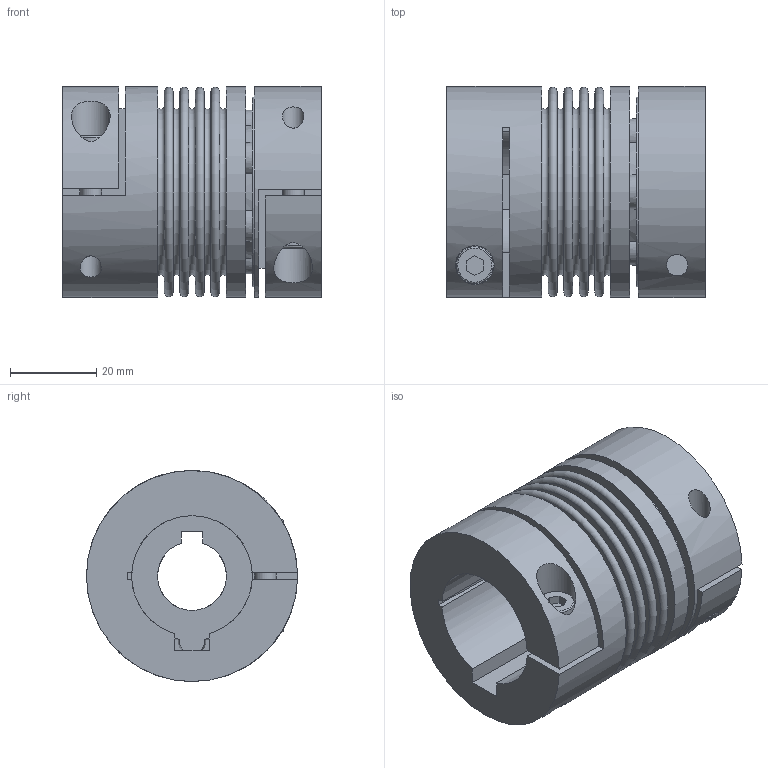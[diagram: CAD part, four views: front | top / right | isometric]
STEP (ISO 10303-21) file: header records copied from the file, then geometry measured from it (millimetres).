
FILE_DESCRIPTION(/* description */ ('STEP AP214'),/* implementation_level */ '2;1');
FILE_NAME(/* name */ 'C:\Diequa Files\DieQua Coupling\BCB\STP\BCB.15.60.#.#.stp',/* time_stamp */ '2018-11-21T09:03:07-06:00',/* author */ ('DiequaCAD'),/* organization */ (''),/* preprocessor_version */ 'ST-DEVELOPER v17.2',/* originating_system */ 'Autodesk Inventor 2019',/* authorisation */ ' ');
FILE_SCHEMA (('AUTOMOTIVE_DESIGN { 1 0 10303 214 3 1 1 }'));
Length unit declared in the file: millimetre
Products named in the file (3): BK5_15_60_28_PFN_16_PFN_69; 2018_11_09__17-47-20-199; 2018_11_09__17-47-20-199_1
Assembly tree (2 placements, depth 2):
  BK5_15_60_28_PFN_16_PFN_69
    2018_11_09__17-47-20-199
    2018_11_09__17-47-20-199_1
Bounding box: 60 x 49 x 49 mm (x, y, z)
Volume: 70925.9 mm3; surface area: 32480.4 mm2
Topology: 2 solids, 2 shells, 120 faces, 311 edges, 214 vertices
Faces by surface type: plane 65, cone 23, cylinder 21, torus 11
Full cylindrical faces by diameter (mm): 5 x4, 8.5 x2, 9 x2, 36 x1, 44 x1, 49 x3
Entity records: 4195 total; most frequent: CARTESIAN_POINT 1006, DIRECTION 682, ORIENTED_EDGE 622, EDGE_CURVE 311, AXIS2_PLACEMENT_3D 282, VERTEX_POINT 214, CIRCLE 157, EDGE_LOOP 147
